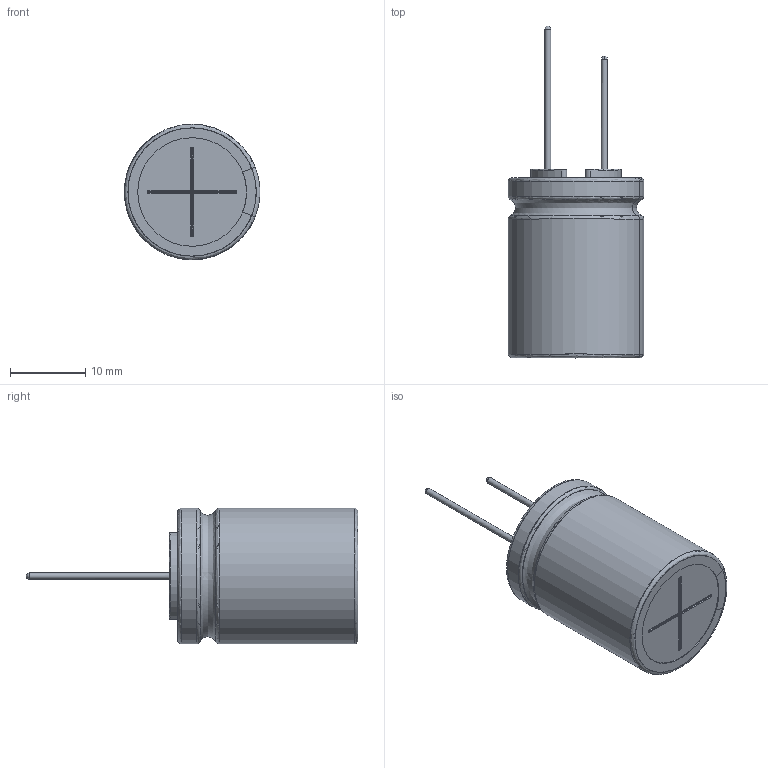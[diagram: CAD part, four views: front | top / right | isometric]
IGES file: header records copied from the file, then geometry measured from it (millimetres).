
Start section: JAMA-IS VERSION  1.0
Bounding box: 17.97 x 44 x 18 mm (x, y, z)
Surface area: 5084 mm2 (no closed solid volume)
Topology: 0 solids, 0 shells, 132 faces, 1531 edges, 1512 vertices
Faces by surface type: bspline 132
